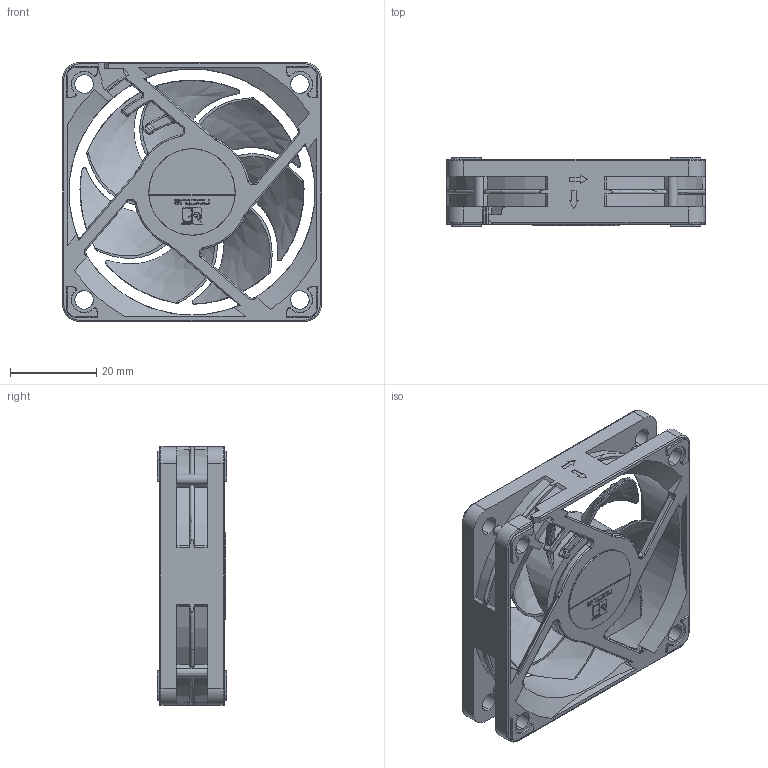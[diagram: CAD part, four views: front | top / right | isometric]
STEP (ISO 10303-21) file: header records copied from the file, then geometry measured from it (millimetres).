
FILE_DESCRIPTION(/* description */ ('140mm Desk Fan'),/* implementation_level */ '2;1');
FILE_NAME(/* name */ 'NF-A6x15_public-V1-20250129',/* time_stamp */ '2026-04-10T08:30:55+02:00',/* author */ ('Andreas'),/* organization */ ('Rascom'),/* preprocessor_version */ 'ST-DEVELOPER v18.102',/* originating_system */ 'Solid Edge',/* authorisation */ 'Unknown');
FILE_SCHEMA (('AUTOMOTIVE_DESIGN {1 0 10303 214 3 1 1}'));
Length unit declared in the file: millimetre
Products named in the file (5): NF-A6x15_public-V1-20250129; A6x15_Frame_public_V1; A6x15_Impeller_public_V1; A6x15_RubberCorner_public_V1; Fan-Label-D20mm-Regular
Assembly tree (11 placements, depth 2):
  NF-A6x15_public-V1-20250129
    A6x15_Frame_public_V1
    A6x15_Impeller_public_V1
    A6x15_RubberCorner_public_V1  x8
    Fan-Label-D20mm-Regular
Bounding box: 60 x 16 x 60 mm (x, y, z)
Volume: 19620.3 mm3; surface area: 18926.4 mm2
Topology: 11 solids, 12 shells, 940 faces, 2534 edges, 1649 vertices
Faces by surface type: cylinder 399, plane 330, torus 111, bspline 75, cone 25
Full cylindrical faces by diameter (mm): 2.983 x1, 20 x1, 27 x1, 57 x1
Entity records: 35862 total; most frequent: CARTESIAN_POINT 15407, ORIENTED_EDGE 4634, DIRECTION 2977, EDGE_CURVE 2317, VERTEX_POINT 1507, B_SPLINE_CURVE_WITH_KNOTS 1160, AXIS2_PLACEMENT_3D 1028, LINE 921
